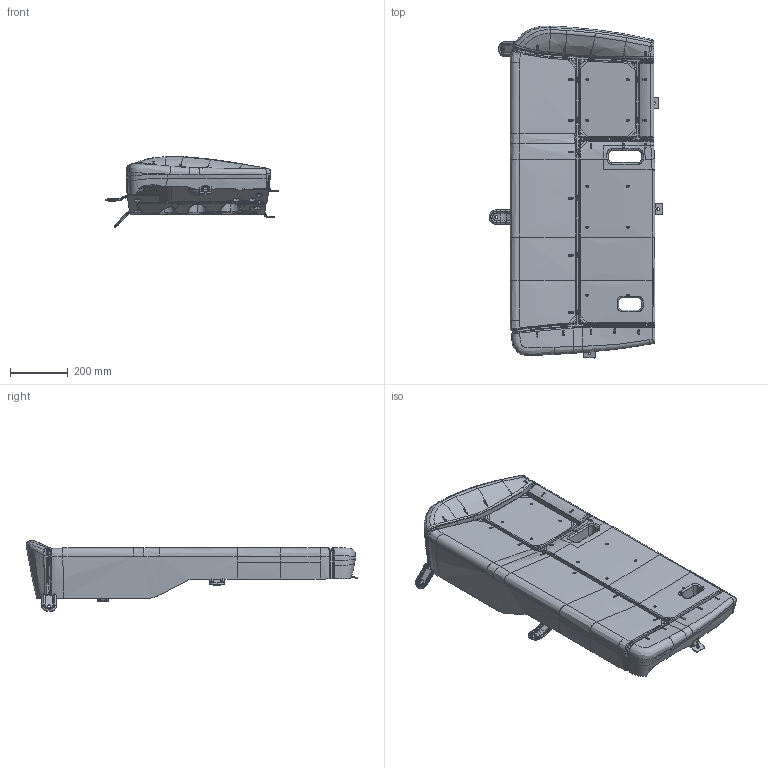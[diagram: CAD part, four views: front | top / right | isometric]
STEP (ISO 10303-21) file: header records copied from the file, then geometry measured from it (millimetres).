
FILE_DESCRIPTION(('CATIA V5 STEP Exchange'),'2;1');
FILE_NAME('C:\Users\wangyangguang\Desktop\统帅副驾加宽座垫数据（SLT0012903）.stp','2025-10-16T07:02:05+00:00',('none'),('none'),'CATIA Version 5 Release 20 GA (IN-10)','CATIA V5 STEP AP214','none');
FILE_SCHEMA(('AUTOMOTIVE_DESIGN { 1 0 10303 214 1 1 1 1 }'));
Products named in the file (3): PA333; 011; 022
Assembly tree (2 placements, depth 2):
  PA333
    011
    022
Bounding box: 601.13 x 1148.83 x 245.82 mm (x, y, z)
Volume: 48720794.2 mm3; surface area: 1908459.5 mm2
Topology: 23 solids, 23 shells, 5658 faces, 15483 edges, 9571 vertices
Faces by surface type: plane 2330, bspline 1834, cylinder 701, torus 360, sphere 345, extrusion 49, cone 33, revolution 6
Entity records: 366998 total; most frequent: CARTESIAN_POINT 245893, ORIENTED_EDGE 30226, DIRECTION 16096, EDGE_CURVE 15113, VERTEX_POINT 9571, VECTOR 7228, LINE 7179, B_SPLINE_CURVE_WITH_KNOTS 5941
